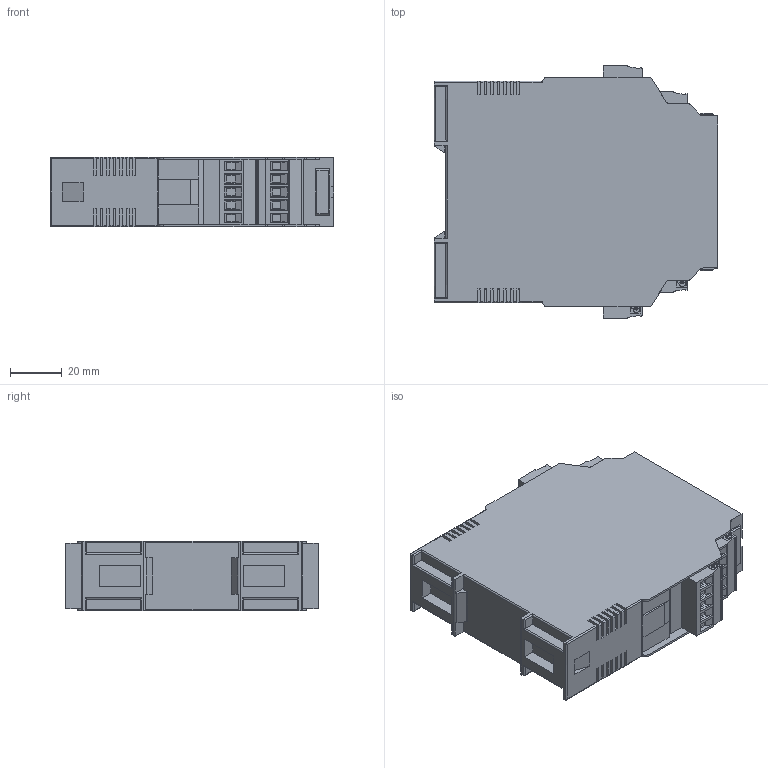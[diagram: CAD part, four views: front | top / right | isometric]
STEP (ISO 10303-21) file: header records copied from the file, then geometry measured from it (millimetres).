
FILE_DESCRIPTION (( 'STEP AP203' ), '1' );
FILE_NAME ('IM-27mm.step', '2013-09-25T16:59:39', ( 'Turck User' ), ( '' ), 'SwSTEP 2.0', 'SolidWorks 2013', '' );
FILE_SCHEMA (( 'CONFIG_CONTROL_DESIGN' ));
Products named in the file (1): IM-27mm
Bounding box: 110.15 x 98 x 27 mm (x, y, z)
Volume: 235862.3 mm3; surface area: 36610 mm2
Topology: 1 solids, 1 shells, 1538 faces, 4121 edges, 2686 vertices
Faces by surface type: plane 1021, cylinder 254, bspline 247, torus 16
Entity records: 49120 total; most frequent: CARTESIAN_POINT 12005, ORIENTED_EDGE 8242, DIRECTION 6667, EDGE_CURVE 4121, LINE 3011, VECTOR 3011, VERTEX_POINT 2686, AXIS2_PLACEMENT_3D 1828
